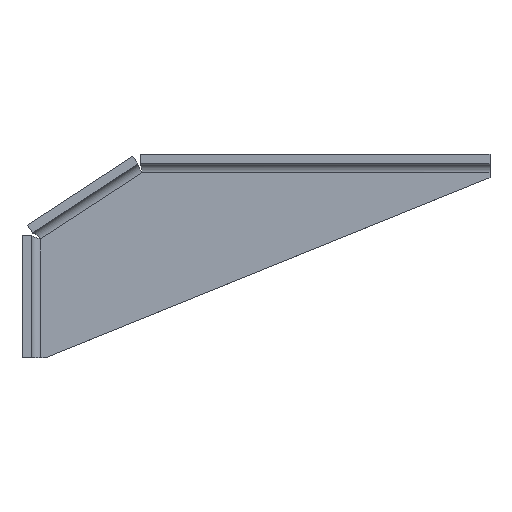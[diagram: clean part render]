
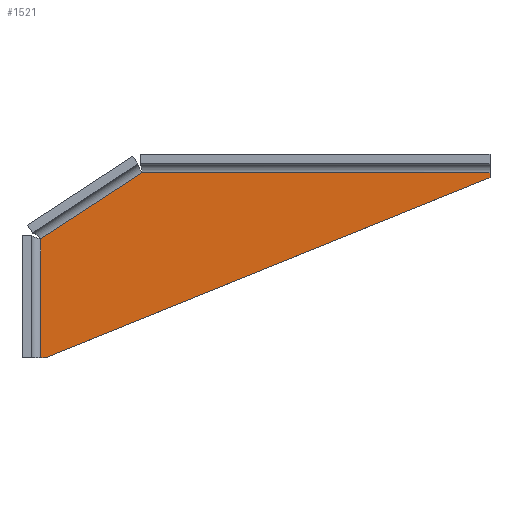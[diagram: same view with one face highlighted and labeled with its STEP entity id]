
A CAD part, top view. The second image highlights one B-rep face of the part: STEP entity #1521.
In plain terms, the highlighted planar face has unit normal (0, 0, 1).
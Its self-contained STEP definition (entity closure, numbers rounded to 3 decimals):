
#13 = LINE ( 'NONE', #883, #1002 ) ;
#44 = VECTOR ( 'NONE', #1079, 1000. ) ;
#45 = CARTESIAN_POINT ( 'NONE',  ( 196., 77., 0. ) ) ;
#80 = EDGE_CURVE ( 'NONE', #1234, #98, #13, .T. ) ;
#98 = VERTEX_POINT ( 'NONE', #244 ) ;
#102 = EDGE_CURVE ( 'NONE', #609, #1466, #796, .T. ) ;
#156 = LINE ( 'NONE', #270, #941 ) ;
#160 = ORIENTED_EDGE ( 'NONE', *, *, #80, .T. ) ;
#168 = VECTOR ( 'NONE', #576, 1000. ) ;
#175 = CARTESIAN_POINT ( 'NONE',  ( 6., 0., 0. ) ) ;
#229 = LINE ( 'NONE', #550, #44 ) ;
#244 = CARTESIAN_POINT ( 'NONE',  ( 196., 77., 0. ) ) ;
#265 = ORIENTED_EDGE ( 'NONE', *, *, #876, .T. ) ;
#270 = CARTESIAN_POINT ( 'NONE',  ( 0., 0., 0. ) ) ;
#382 = EDGE_CURVE ( 'NONE', #1626, #1234, #156, .T. ) ;
#393 = DIRECTION ( 'NONE',  ( 1., 0., 0. ) ) ;
#454 = EDGE_LOOP ( 'NONE', ( #265, #513, #651, #856, #986, #160 ) ) ;
#502 = PLANE ( 'NONE',  #1593 ) ;
#513 = ORIENTED_EDGE ( 'NONE', *, *, #1655, .F. ) ;
#550 = CARTESIAN_POINT ( 'NONE',  ( 46.522, 79., 0. ) ) ;
#576 = DIRECTION ( 'NONE',  ( 0., 1., 0. ) ) ;
#609 = VERTEX_POINT ( 'NONE', #1400 ) ;
#630 = DIRECTION ( 'NONE',  ( 0., 0., 1. ) ) ;
#635 = CARTESIAN_POINT ( 'NONE',  ( 196., 79., 0. ) ) ;
#651 = ORIENTED_EDGE ( 'NONE', *, *, #102, .F. ) ;
#694 = LINE ( 'NONE', #45, #168 ) ;
#724 = DIRECTION ( 'NONE',  ( 0.927, 0.376, 0. ) ) ;
#758 = DIRECTION ( 'NONE',  ( 0.838, 0.546, 0. ) ) ;
#796 = LINE ( 'NONE', #1031, #1414 ) ;
#856 = ORIENTED_EDGE ( 'NONE', *, *, #1294, .F. ) ;
#876 = EDGE_CURVE ( 'NONE', #98, #1602, #694, .T. ) ;
#883 = CARTESIAN_POINT ( 'NONE',  ( 6., 0., 0. ) ) ;
#941 = VECTOR ( 'NONE', #393, 1000. ) ;
#979 = LINE ( 'NONE', #1515, #1268 ) ;
#986 = ORIENTED_EDGE ( 'NONE', *, *, #382, .T. ) ;
#1002 = VECTOR ( 'NONE', #724, 1000. ) ;
#1031 = CARTESIAN_POINT ( 'NONE',  ( 2.661, 49.96, 0. ) ) ;
#1079 = DIRECTION ( 'NONE',  ( 1., 0., 0. ) ) ;
#1234 = VERTEX_POINT ( 'NONE', #175 ) ;
#1267 = DIRECTION ( 'NONE',  ( 0., 1., 0. ) ) ;
#1268 = VECTOR ( 'NONE', #1267, 1000. ) ;
#1291 = CARTESIAN_POINT ( 'NONE',  ( 47.189, 79., 0. ) ) ;
#1294 = EDGE_CURVE ( 'NONE', #1626, #609, #979, .T. ) ;
#1400 = CARTESIAN_POINT ( 'NONE',  ( 4., 50.833, 0. ) ) ;
#1414 = VECTOR ( 'NONE', #758, 1000. ) ;
#1422 = CARTESIAN_POINT ( 'NONE',  ( 0., 0., 0. ) ) ;
#1427 = FACE_OUTER_BOUND ( 'NONE', #454, .T. ) ;
#1455 = CARTESIAN_POINT ( 'NONE',  ( 4., 0., 0. ) ) ;
#1466 = VERTEX_POINT ( 'NONE', #1291 ) ;
#1515 = CARTESIAN_POINT ( 'NONE',  ( 4., 0., 0. ) ) ;
#1521 = ADVANCED_FACE ( 'NONE', ( #1427 ), #502, .T. ) ;
#1553 = DIRECTION ( 'NONE',  ( 1., 0., 0. ) ) ;
#1593 = AXIS2_PLACEMENT_3D ( 'NONE', #1422, #630, #1553 ) ;
#1602 = VERTEX_POINT ( 'NONE', #635 ) ;
#1626 = VERTEX_POINT ( 'NONE', #1455 ) ;
#1655 = EDGE_CURVE ( 'NONE', #1466, #1602, #229, .T. ) ;
